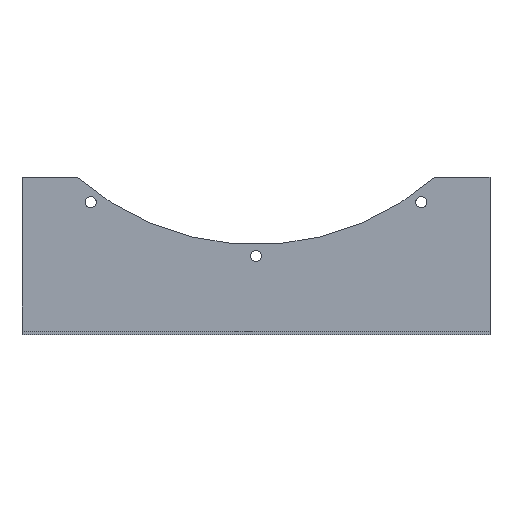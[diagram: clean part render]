
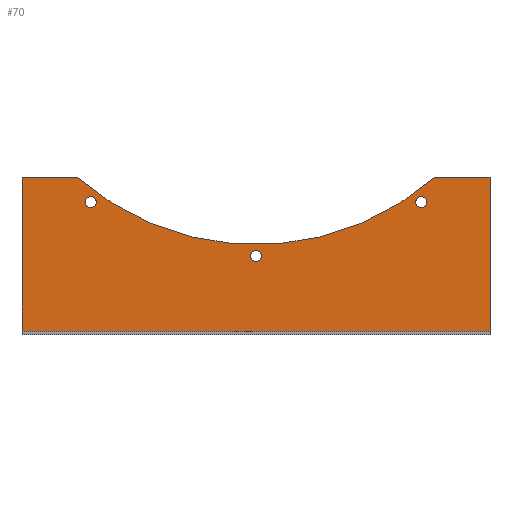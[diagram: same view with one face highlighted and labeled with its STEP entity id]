
A CAD part, top view. The second image highlights one B-rep face of the part: STEP entity #70.
In plain terms, the highlighted planar face has unit normal (0, 0, 1).
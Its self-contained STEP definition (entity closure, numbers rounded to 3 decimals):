
#70=ADVANCED_FACE('',(#143,#144,#145,#146),#147,.T.);
#143=FACE_BOUND('',#220,.T.);
#144=FACE_BOUND('',#221,.T.);
#145=FACE_BOUND('',#222,.T.);
#146=FACE_OUTER_BOUND('',#223,.T.);
#147=PLANE('',#224);
#220=EDGE_LOOP('',(#361,#362));
#221=EDGE_LOOP('',(#363,#364));
#222=EDGE_LOOP('',(#365,#366));
#223=EDGE_LOOP('',(#367,#368,#369,#370,#371,#372));
#224=AXIS2_PLACEMENT_3D('',#373,#374,#375);
#361=ORIENTED_EDGE('',*,*,#458,.T.);
#362=ORIENTED_EDGE('',*,*,#463,.T.);
#363=ORIENTED_EDGE('',*,*,#453,.T.);
#364=ORIENTED_EDGE('',*,*,#466,.T.);
#365=ORIENTED_EDGE('',*,*,#448,.T.);
#366=ORIENTED_EDGE('',*,*,#469,.T.);
#367=ORIENTED_EDGE('',*,*,#471,.T.);
#368=ORIENTED_EDGE('',*,*,#491,.F.);
#369=ORIENTED_EDGE('',*,*,#492,.F.);
#370=ORIENTED_EDGE('',*,*,#493,.F.);
#371=ORIENTED_EDGE('',*,*,#494,.F.);
#372=ORIENTED_EDGE('',*,*,#482,.F.);
#373=CARTESIAN_POINT('',(0.0,4.0,-11.0));
#374=DIRECTION('',(0.0,0.0,1.0));
#375=DIRECTION('',(1.0,0.0,0.0));
#448=EDGE_CURVE('',#532,#529,#533,.T.);
#453=EDGE_CURVE('',#541,#538,#542,.T.);
#458=EDGE_CURVE('',#550,#547,#551,.T.);
#463=EDGE_CURVE('',#547,#550,#557,.T.);
#466=EDGE_CURVE('',#538,#541,#560,.T.);
#469=EDGE_CURVE('',#529,#532,#563,.T.);
#471=EDGE_CURVE('',#565,#566,#567,.T.);
#482=EDGE_CURVE('',#565,#584,#585,.T.);
#491=EDGE_CURVE('',#594,#566,#595,.T.);
#492=EDGE_CURVE('',#596,#594,#597,.T.);
#493=EDGE_CURVE('',#598,#596,#599,.T.);
#494=EDGE_CURVE('',#584,#598,#600,.T.);
#529=VERTEX_POINT('',#643);
#532=VERTEX_POINT('',#647);
#533=CIRCLE('',#648,6.25);
#538=VERTEX_POINT('',#654);
#541=VERTEX_POINT('',#658);
#542=CIRCLE('',#659,6.25);
#547=VERTEX_POINT('',#665);
#550=VERTEX_POINT('',#669);
#551=CIRCLE('',#670,6.25);
#557=CIRCLE('',#677,6.25);
#560=CIRCLE('',#680,6.25);
#563=CIRCLE('',#683,6.25);
#565=VERTEX_POINT('',#685);
#566=VERTEX_POINT('',#686);
#567=CIRCLE('',#687,300.0);
#584=VERTEX_POINT('',#711);
#585=LINE('',#712,#713);
#594=VERTEX_POINT('',#723);
#595=LINE('',#724,#725);
#596=VERTEX_POINT('',#726);
#597=LINE('',#727,#728);
#598=VERTEX_POINT('',#729);
#599=LINE('',#730,#731);
#600=LINE('',#732,#733);
#643=CARTESIAN_POINT('',(6.25,0.,-11.0));
#647=CARTESIAN_POINT('',(-6.25,0.,-11.0));
#648=AXIS2_PLACEMENT_3D('',#779,#780,#781);
#654=CARTESIAN_POINT('',(188.739,63.356,-11.0));
#658=CARTESIAN_POINT('',(178.627,56.009,-11.0));
#659=AXIS2_PLACEMENT_3D('',#787,#788,#789);
#665=CARTESIAN_POINT('',(-178.627,56.009,-11.0));
#669=CARTESIAN_POINT('',(-188.739,63.356,-11.0));
#670=AXIS2_PLACEMENT_3D('',#795,#796,#797);
#677=AXIS2_PLACEMENT_3D('',#805,#806,#807);
#680=AXIS2_PLACEMENT_3D('',#811,#812,#813);
#683=AXIS2_PLACEMENT_3D('',#817,#818,#819);
#685=CARTESIAN_POINT('',(198.431,87.5,-11.0));
#686=CARTESIAN_POINT('',(-198.431,87.5,-11.0));
#687=AXIS2_PLACEMENT_3D('',#820,#821,#822);
#711=CARTESIAN_POINT('',(260.0,87.5,-11.0));
#712=CARTESIAN_POINT('',(0.0,87.5,-11.0));
#713=VECTOR('',#833,1.0);
#723=CARTESIAN_POINT('',(-260.0,87.5,-11.0));
#724=CARTESIAN_POINT('',(0.0,87.5,-11.0));
#725=VECTOR('',#847,1.0);
#726=CARTESIAN_POINT('',(-260.0,-83.5,-11.0));
#727=CARTESIAN_POINT('',(-260.0,2.0,-11.0));
#728=VECTOR('',#848,1.0);
#729=CARTESIAN_POINT('',(260.0,-83.5,-11.0));
#730=CARTESIAN_POINT('',(0.0,-83.5,-11.0));
#731=VECTOR('',#849,1.0);
#732=CARTESIAN_POINT('',(260.0,2.0,-11.0));
#733=VECTOR('',#850,1.0);
#779=CARTESIAN_POINT('',(0.0,0.0,-11.0));
#780=DIRECTION('',(0.0,0.0,-1.0));
#781=DIRECTION('',(1.0,0.0,0.0));
#787=CARTESIAN_POINT('',(183.683,59.682,-11.0));
#788=DIRECTION('',(0.0,0.0,-1.0));
#789=DIRECTION('',(0.809,0.588,0.0));
#795=CARTESIAN_POINT('',(-183.683,59.682,-11.0));
#796=DIRECTION('',(0.0,-0.0,-1.0));
#797=DIRECTION('',(0.809,-0.588,0.0));
#805=CARTESIAN_POINT('',(-183.683,59.682,-11.0));
#806=DIRECTION('',(0.0,-0.0,-1.0));
#807=DIRECTION('',(0.809,-0.588,0.0));
#811=CARTESIAN_POINT('',(183.683,59.682,-11.0));
#812=DIRECTION('',(0.0,0.0,-1.0));
#813=DIRECTION('',(0.809,0.588,0.0));
#817=CARTESIAN_POINT('',(0.0,0.0,-11.0));
#818=DIRECTION('',(0.0,0.0,-1.0));
#819=DIRECTION('',(1.0,0.0,0.0));
#820=CARTESIAN_POINT('',(0.0,312.5,-11.0));
#821=DIRECTION('',(0.0,0.0,-1.0));
#822=DIRECTION('',(1.0,0.0,0.0));
#833=DIRECTION('',(1.0,0.0,-0.0));
#847=DIRECTION('',(1.0,0.0,-0.0));
#848=DIRECTION('',(0.0,1.0,0.0));
#849=DIRECTION('',(-1.0,0.0,0.0));
#850=DIRECTION('',(0.0,-1.0,0.0));
